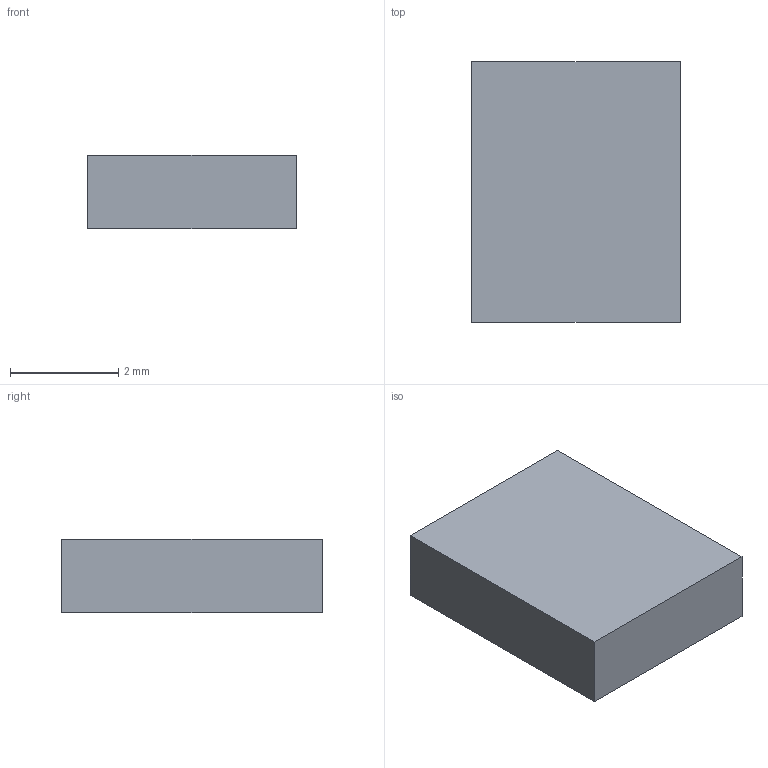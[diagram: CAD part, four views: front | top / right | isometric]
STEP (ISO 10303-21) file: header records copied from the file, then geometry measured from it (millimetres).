
FILE_DESCRIPTION(('Open CASCADE Model'),'2;1');
FILE_NAME('Open CASCADE Shape Model','2026-09-17T14:57:39',('Author'),( 'Open CASCADE'),'Open CASCADE STEP processor 7.8','Open CASCADE 7.8' ,'Unknown');
FILE_SCHEMA(('AUTOMOTIVE_DESIGN { 1 0 10303 214 1 1 1 1 }'));
Length unit declared in the file: millimetre
Products named in the file (1): Open CASCADE STEP translator 7.8 18
Bounding box: 3.86 x 4.82 x 1.35 mm (x, y, z)
Volume: 25.1 mm3; surface area: 60.6 mm2
Topology: 1 solids, 1 shells, 6 faces, 12 edges, 8 vertices
Faces by surface type: plane 6
Entity records: 322 total; most frequent: CARTESIAN_POINT 51, DIRECTION 50, LINE 36, VECTOR 36, ORIENTED_EDGE 24, PCURVE 24, DEFINITIONAL_REPRESENTATION 24, EDGE_CURVE 12
